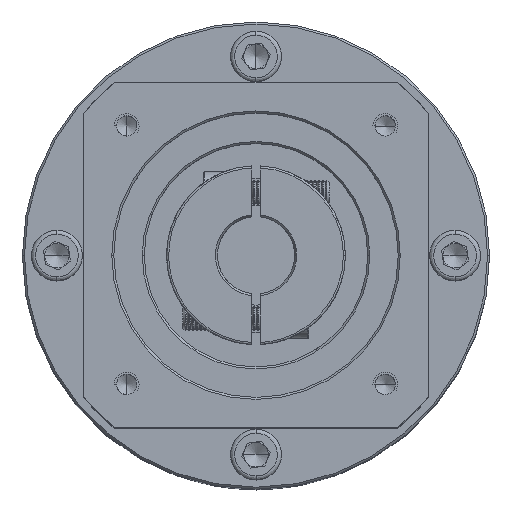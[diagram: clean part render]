
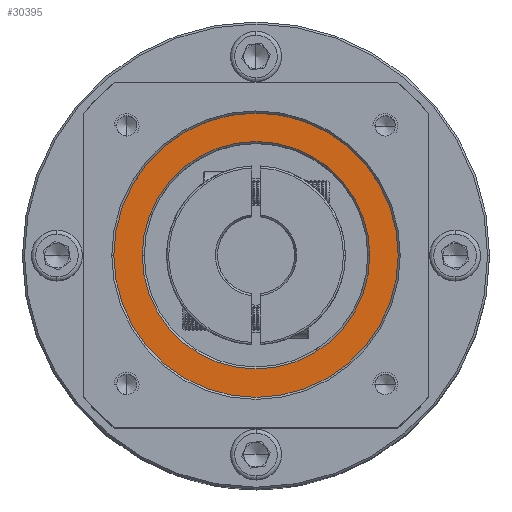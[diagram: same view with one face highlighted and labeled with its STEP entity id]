
A CAD part, top view. The second image highlights one B-rep face of the part: STEP entity #30395.
In plain terms, the highlighted planar face has unit normal (0, 0, 1).
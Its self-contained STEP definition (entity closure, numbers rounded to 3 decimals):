
#596 = CARTESIAN_POINT ( 'NONE',  ( 126.454, -20.38, 31.029 ) ) ;
#1321 = CARTESIAN_POINT ( 'NONE',  ( 98.454, -20.38, 31.029 ) ) ;
#4634 = ORIENTED_EDGE ( 'NONE', *, *, #99419, .T. ) ;
#5118 = EDGE_LOOP ( 'NONE', ( #11237, #100304 ) ) ;
#7269 = CIRCLE ( 'NONE', #84171, 35. ) ;
#9662 = EDGE_CURVE ( 'NONE', #122638, #58653, #80258, .T. ) ;
#11237 = ORIENTED_EDGE ( 'NONE', *, *, #115764, .T. ) ;
#12228 = CARTESIAN_POINT ( 'NONE',  ( 98.454, -20.38, 31.029 ) ) ;
#13055 = DIRECTION ( 'NONE',  ( 0., 0., -1. ) ) ;
#15912 = CIRCLE ( 'NONE', #106940, 35. ) ;
#26271 = AXIS2_PLACEMENT_3D ( 'NONE', #12228, #13055, #80324 ) ;
#30395 = ADVANCED_FACE ( 'NONE', ( #84167, #118718 ), #83609, .T. ) ;
#33416 = CARTESIAN_POINT ( 'NONE',  ( 63.454, -20.38, 31.029 ) ) ;
#45047 = ORIENTED_EDGE ( 'NONE', *, *, #87635, .T. ) ;
#45782 = DIRECTION ( 'NONE',  ( 0., 0., 1. ) ) ;
#58653 = VERTEX_POINT ( 'NONE', #596 ) ;
#58656 = DIRECTION ( 'NONE',  ( 1., 0., 0. ) ) ;
#59265 = CIRCLE ( 'NONE', #98887, 28. ) ;
#64260 = DIRECTION ( 'NONE',  ( 1., 0., 0. ) ) ;
#68122 = DIRECTION ( 'NONE',  ( 0., 0., -1. ) ) ;
#68768 = CARTESIAN_POINT ( 'NONE',  ( 98.454, -20.38, 31.029 ) ) ;
#69197 = DIRECTION ( 'NONE',  ( 1., 0., 0. ) ) ;
#73913 = AXIS2_PLACEMENT_3D ( 'NONE', #122196, #45782, #64260 ) ;
#76763 = CARTESIAN_POINT ( 'NONE',  ( 98.454, -20.38, 31.029 ) ) ;
#80258 = CIRCLE ( 'NONE', #26271, 28. ) ;
#80324 = DIRECTION ( 'NONE',  ( 1., 0., 0. ) ) ;
#81223 = VERTEX_POINT ( 'NONE', #33416 ) ;
#83609 = PLANE ( 'NONE',  #73913 ) ;
#84167 = FACE_OUTER_BOUND ( 'NONE', #93090, .T. ) ;
#84171 = AXIS2_PLACEMENT_3D ( 'NONE', #68768, #106221, #69197 ) ;
#87635 = EDGE_CURVE ( 'NONE', #102251, #81223, #15912, .T. ) ;
#90332 = CARTESIAN_POINT ( 'NONE',  ( 70.454, -20.38, 31.029 ) ) ;
#93090 = EDGE_LOOP ( 'NONE', ( #45047, #4634 ) ) ;
#96928 = DIRECTION ( 'NONE',  ( 0., 0., 1. ) ) ;
#98887 = AXIS2_PLACEMENT_3D ( 'NONE', #1321, #68122, #106421 ) ;
#99419 = EDGE_CURVE ( 'NONE', #81223, #102251, #7269, .T. ) ;
#100304 = ORIENTED_EDGE ( 'NONE', *, *, #9662, .T. ) ;
#102251 = VERTEX_POINT ( 'NONE', #107335 ) ;
#106221 = DIRECTION ( 'NONE',  ( 0., 0., 1. ) ) ;
#106421 = DIRECTION ( 'NONE',  ( 1., 0., 0. ) ) ;
#106940 = AXIS2_PLACEMENT_3D ( 'NONE', #76763, #96928, #58656 ) ;
#107335 = CARTESIAN_POINT ( 'NONE',  ( 133.454, -20.38, 31.029 ) ) ;
#115764 = EDGE_CURVE ( 'NONE', #58653, #122638, #59265, .T. ) ;
#118718 = FACE_BOUND ( 'NONE', #5118, .T. ) ;
#122196 = CARTESIAN_POINT ( 'NONE',  ( 98.454, -20.38, 31.029 ) ) ;
#122638 = VERTEX_POINT ( 'NONE', #90332 ) ;
